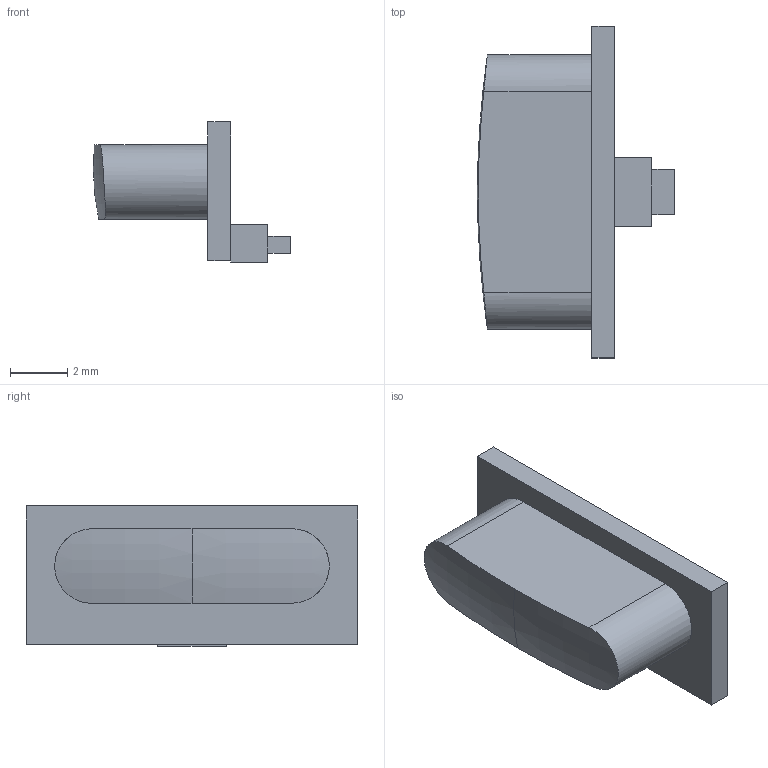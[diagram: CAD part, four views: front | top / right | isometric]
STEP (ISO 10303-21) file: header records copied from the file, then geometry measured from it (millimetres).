
FILE_DESCRIPTION (( 'STEP AP203' ), '1' );
FILE_NAME ('V11_Button_R2.step', '2026-10-26T14:55:55', ( '' ), ( '' ), 'SwSTEP 2.0', 'SolidWorks 2026', '' );
FILE_SCHEMA (( 'CONFIG_CONTROL_DESIGN' ));
Length unit declared in the file: millimetre
Products named in the file (1): V11_Button_R2
Bounding box: 6.9 x 11.6 x 4.9 mm (x, y, z)
Volume: 140.3 mm3; surface area: 235.7 mm2
Topology: 1 solids, 1 shells, 23 faces, 55 edges, 36 vertices
Faces by surface type: plane 19, torus 2, cylinder 2
Entity records: 775 total; most frequent: CARTESIAN_POINT 157, ORIENTED_EDGE 110, DIRECTION 108, EDGE_CURVE 55, VECTOR 46, LINE 46, VERTEX_POINT 36, AXIS2_PLACEMENT_3D 31
